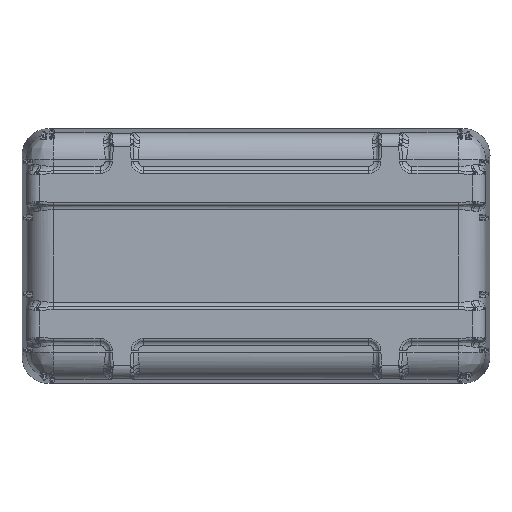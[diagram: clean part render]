
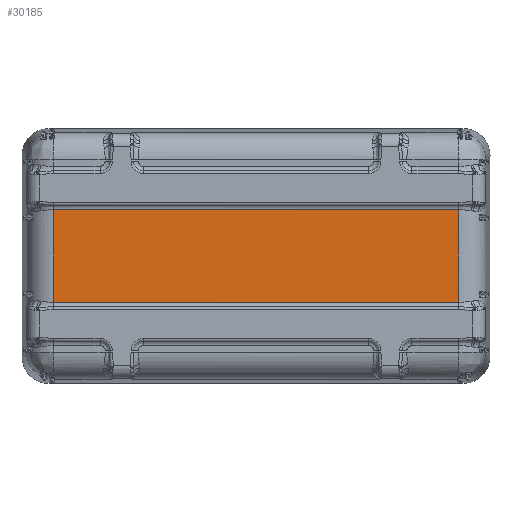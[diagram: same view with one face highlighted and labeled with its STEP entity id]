
A CAD part, front view. The second image highlights one B-rep face of the part: STEP entity #30185.
In plain terms, the highlighted planar face has unit normal (0, -1, 0).
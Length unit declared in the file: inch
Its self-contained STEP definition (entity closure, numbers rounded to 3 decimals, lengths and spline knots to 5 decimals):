
#5926 = VERTEX_POINT ( 'NONE', #79461 ) ;
#5930 = EDGE_CURVE ( 'NONE', #5926, #5931, #79458, .T. ) ;
#5931 = VERTEX_POINT ( 'NONE', #79507 ) ;
#6004 = VERTEX_POINT ( 'NONE', #79667 ) ;
#6011 = VERTEX_POINT ( 'NONE', #79666 ) ;
#6015 = EDGE_CURVE ( 'NONE', #6011, #6004, #79665, .T. ) ;
#30140 = ORIENTED_EDGE ( 'NONE', *, *, #30141, .T. ) ;
#30141 = EDGE_CURVE ( 'NONE', #6011, #5931, #37334, .T. ) ;
#30143 = ORIENTED_EDGE ( 'NONE', *, *, #5930, .F. ) ;
#30145 = ORIENTED_EDGE ( 'NONE', *, *, #30147, .T. ) ;
#30147 = EDGE_CURVE ( 'NONE', #5926, #6004, #37330, .T. ) ;
#30185 = ADVANCED_FACE ( 'NONE', ( #37718 ), #37722, .F. ) ;
#30186 = EDGE_LOOP ( 'NONE', ( #30187, #30140, #30143, #30145 ) ) ;
#30187 = ORIENTED_EDGE ( 'NONE', *, *, #6015, .F. ) ;
#37327 = DIRECTION ( 'NONE',  ( 0., 0., -1. ) ) ;
#37328 = VECTOR ( 'NONE', #37327, 39.37008 ) ;
#37329 = CARTESIAN_POINT ( 'NONE',  ( -8.20182, -6.0325, 0. ) ) ;
#37330 = LINE ( 'NONE', #37329, #37328 ) ;
#37331 = DIRECTION ( 'NONE',  ( 0., 0., 1. ) ) ;
#37332 = VECTOR ( 'NONE', #37331, 39.37008 ) ;
#37333 = CARTESIAN_POINT ( 'NONE',  ( 8.20182, -6.0325, 0. ) ) ;
#37334 = LINE ( 'NONE', #37333, #37332 ) ;
#37707 = DIRECTION ( 'NONE',  ( 0., 0., 1. ) ) ;
#37708 = DIRECTION ( 'NONE',  ( 0., 1., 0. ) ) ;
#37709 = CARTESIAN_POINT ( 'NONE',  ( -8.20182, -6.0325, -1.87032 ) ) ;
#37710 = AXIS2_PLACEMENT_3D ( 'NONE', #37709, #37708, #37707 ) ;
#37718 = FACE_OUTER_BOUND ( 'NONE', #30186, .T. ) ;
#37722 = PLANE ( 'NONE',  #37710 ) ;
#79457 = CARTESIAN_POINT ( 'NONE',  ( 0., -6.0325, 1.87032 ) ) ;
#79458 = LINE ( 'NONE', #79457, #79509 ) ;
#79461 = CARTESIAN_POINT ( 'NONE',  ( -8.20182, -6.0325, 1.87032 ) ) ;
#79507 = CARTESIAN_POINT ( 'NONE',  ( 8.20182, -6.0325, 1.87032 ) ) ;
#79508 = DIRECTION ( 'NONE',  ( 1., 0., 0. ) ) ;
#79509 = VECTOR ( 'NONE', #79508, 39.37008 ) ;
#79665 = LINE ( 'NONE', #79718, #79707 ) ;
#79666 = CARTESIAN_POINT ( 'NONE',  ( 8.20182, -6.0325, -1.87032 ) ) ;
#79667 = CARTESIAN_POINT ( 'NONE',  ( -8.20182, -6.0325, -1.87032 ) ) ;
#79706 = DIRECTION ( 'NONE',  ( -1., 0., 0. ) ) ;
#79707 = VECTOR ( 'NONE', #79706, 39.37008 ) ;
#79718 = CARTESIAN_POINT ( 'NONE',  ( 0., -6.0325, -1.87032 ) ) ;
